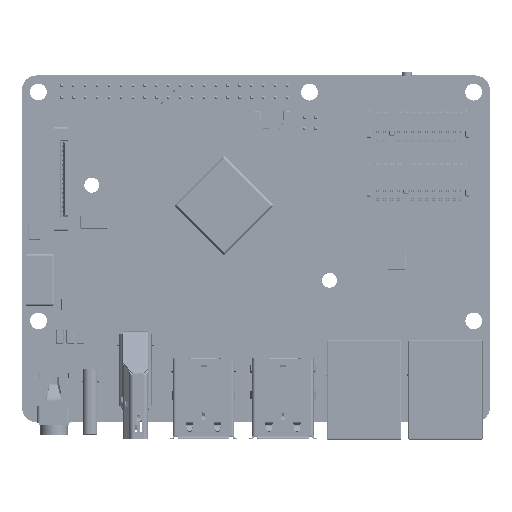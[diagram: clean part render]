
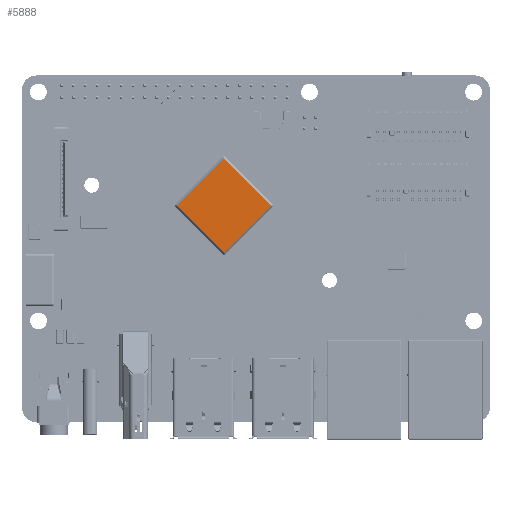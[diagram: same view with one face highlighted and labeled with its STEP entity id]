
A CAD part, top view. The second image highlights one B-rep face of the part: STEP entity #5888.
In plain terms, the highlighted planar face has unit normal (0, 0, 1).
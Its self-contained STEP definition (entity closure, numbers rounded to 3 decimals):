
#2525=DIRECTION('',(-0.707,0.707,0.));
#2526=VECTOR('',#2525,14.2);
#2527=CARTESIAN_POINT('',(3.216,9.359,1.5));
#2528=LINE('',#2527,#2526);
#2532=DIRECTION('',(0.707,0.707,0.));
#2533=VECTOR('',#2532,14.2);
#2534=CARTESIAN_POINT('',(-6.825,-0.682,1.5));
#2535=LINE('',#2534,#2533);
#2539=DIRECTION('',(0.707,-0.707,0.));
#2540=VECTOR('',#2539,14.2);
#2541=CARTESIAN_POINT('',(-16.866,9.359,1.5));
#2542=LINE('',#2541,#2540);
#2546=DIRECTION('',(-0.707,-0.707,0.));
#2547=VECTOR('',#2546,14.2);
#2548=CARTESIAN_POINT('',(-6.825,19.4,1.5));
#2549=LINE('',#2548,#2547);
#4526=CARTESIAN_POINT('',(3.216,9.359,1.5));
#4527=CARTESIAN_POINT('',(-6.825,19.4,1.5));
#4528=VERTEX_POINT('',#4526);
#4529=VERTEX_POINT('',#4527);
#4534=CARTESIAN_POINT('',(-16.866,9.359,1.5));
#4535=VERTEX_POINT('',#4534);
#4540=CARTESIAN_POINT('',(-6.825,-0.682,1.5));
#4541=VERTEX_POINT('',#4540);
#5874=CARTESIAN_POINT('',(0.,0.,1.5));
#5875=DIRECTION('',(0.,0.,1.));
#5876=DIRECTION('',(1.,0.,0.));
#5877=AXIS2_PLACEMENT_3D('',#5874,#5875,#5876);
#5878=PLANE('',#5877);
#5880=ORIENTED_EDGE('',*,*,#5879,.F.);
#5881=ORIENTED_EDGE('',*,*,#5865,.F.);
#5883=ORIENTED_EDGE('',*,*,#5882,.F.);
#5885=ORIENTED_EDGE('',*,*,#5884,.F.);
#5886=EDGE_LOOP('',(#5880,#5881,#5883,#5885));
#5887=FACE_OUTER_BOUND('',#5886,.F.);
#5888=ADVANCED_FACE('',(#5887),#5878,.T.);
#5865=EDGE_CURVE('',#4541,#4528,#2535,.T.);
#5879=EDGE_CURVE('',#4528,#4529,#2528,.T.);
#5882=EDGE_CURVE('',#4535,#4541,#2542,.T.);
#5884=EDGE_CURVE('',#4529,#4535,#2549,.T.);
